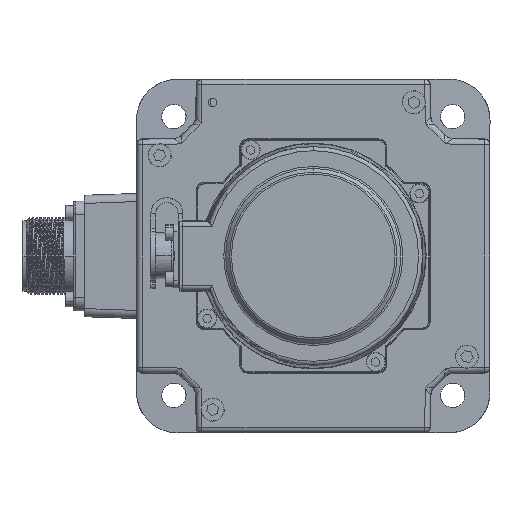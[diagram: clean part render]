
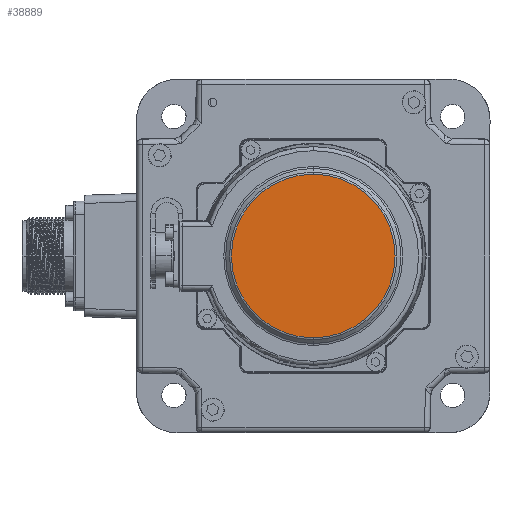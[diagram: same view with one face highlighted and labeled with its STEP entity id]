
A CAD part, left-side view. The second image highlights one B-rep face of the part: STEP entity #38889.
In plain terms, the highlighted planar face has unit normal (-1, 0, 0).
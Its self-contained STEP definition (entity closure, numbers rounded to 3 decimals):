
#336 = CARTESIAN_POINT ( 'NONE',  ( -89.5, 0., 0. ) ) ;
#2167 = PLANE ( 'NONE',  #19779 ) ;
#5813 = DIRECTION ( 'NONE',  ( 0., 0., 1. ) ) ;
#7029 = CARTESIAN_POINT ( 'NONE',  ( -89.5, 0., 0. ) ) ;
#8469 = FACE_OUTER_BOUND ( 'NONE', #22994, .T. ) ;
#9266 = DIRECTION ( 'NONE',  ( 0., 0., 1. ) ) ;
#11522 = CARTESIAN_POINT ( 'NONE',  ( -89.5, 0., 0. ) ) ;
#11694 = VERTEX_POINT ( 'NONE', #18695 ) ;
#14198 = CIRCLE ( 'NONE', #36787, 30.086 ) ;
#14263 = EDGE_CURVE ( 'NONE', #11694, #33772, #21717, .T. ) ;
#14361 = CARTESIAN_POINT ( 'NONE',  ( -89.5, 0., -30.086 ) ) ;
#16194 = DIRECTION ( 'NONE',  ( -1., 0., 0. ) ) ;
#16229 = ORIENTED_EDGE ( 'NONE', *, *, #14263, .T. ) ;
#16367 = DIRECTION ( 'NONE',  ( -1., 0., 0. ) ) ;
#17695 = ORIENTED_EDGE ( 'NONE', *, *, #22610, .T. ) ;
#18695 = CARTESIAN_POINT ( 'NONE',  ( -89.5, 0., 30.086 ) ) ;
#19779 = AXIS2_PLACEMENT_3D ( 'NONE', #11522, #26925, #5813 ) ;
#21717 = CIRCLE ( 'NONE', #32068, 30.086 ) ;
#22610 = EDGE_CURVE ( 'NONE', #33772, #11694, #14198, .T. ) ;
#22994 = EDGE_LOOP ( 'NONE', ( #16229, #17695 ) ) ;
#26925 = DIRECTION ( 'NONE',  ( -1., 0., 0. ) ) ;
#32068 = AXIS2_PLACEMENT_3D ( 'NONE', #336, #16194, #9266 ) ;
#33772 = VERTEX_POINT ( 'NONE', #14361 ) ;
#34791 = DIRECTION ( 'NONE',  ( 0., 0., 1. ) ) ;
#36787 = AXIS2_PLACEMENT_3D ( 'NONE', #7029, #16367, #34791 ) ;
#38889 = ADVANCED_FACE ( 'NONE', ( #8469 ), #2167, .T. ) ;
